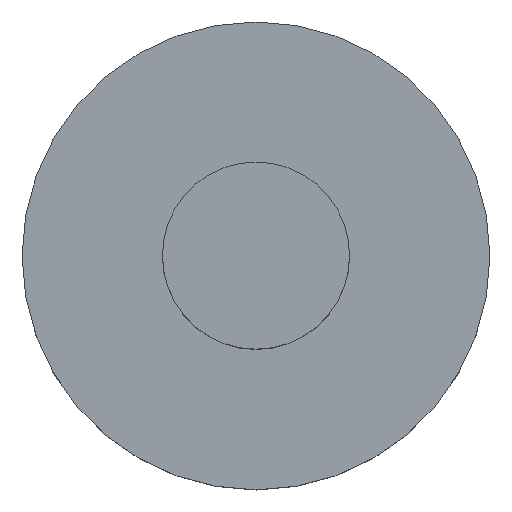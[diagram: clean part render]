
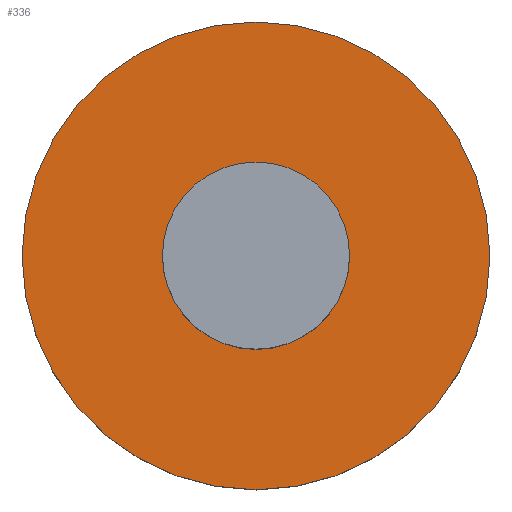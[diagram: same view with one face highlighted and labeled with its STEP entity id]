
A CAD part, top view. The second image highlights one B-rep face of the part: STEP entity #336.
In plain terms, the highlighted planar face has unit normal (0, 0, 1).
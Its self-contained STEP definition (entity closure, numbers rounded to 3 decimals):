
#95=CARTESIAN_POINT('',(0.,0.,-0.6));
#96=DIRECTION('',(0.,0.,1.));
#97=DIRECTION('',(0.,1.,0.));
#98=AXIS2_PLACEMENT_3D('',#95,#96,#97);
#100=CARTESIAN_POINT('',(0.,0.,-0.6));
#101=DIRECTION('',(0.,0.,-1.));
#102=DIRECTION('',(0.,1.,0.));
#103=AXIS2_PLACEMENT_3D('',#100,#101,#102);
#105=CARTESIAN_POINT('',(0.,0.,-0.6));
#106=DIRECTION('',(0.,0.,-1.));
#107=DIRECTION('',(0.,1.,0.));
#108=AXIS2_PLACEMENT_3D('',#105,#106,#107);
#118=CARTESIAN_POINT('',(0.,0.,-0.6));
#119=DIRECTION('',(0.,0.,1.));
#120=DIRECTION('',(0.,1.,0.));
#121=AXIS2_PLACEMENT_3D('',#118,#119,#120);
#144=CARTESIAN_POINT('',(0.,0.75,-0.6));
#146=VERTEX_POINT('',#144);
#147=CARTESIAN_POINT('',(0.,0.3,-0.6));
#149=VERTEX_POINT('',#147);
#160=CARTESIAN_POINT('',(0.,-0.75,-0.6));
#162=VERTEX_POINT('',#160);
#163=CARTESIAN_POINT('',(0.,-0.3,-0.6));
#165=VERTEX_POINT('',#163);
#321=CARTESIAN_POINT('',(0.,0.,-0.6));
#322=DIRECTION('',(0.,0.,-1.));
#323=DIRECTION('',(0.,-1.,0.));
#324=AXIS2_PLACEMENT_3D('',#321,#322,#323);
#325=PLANE('',#324);
#326=ORIENTED_EDGE('',*,*,#314,.F.);
#327=ORIENTED_EDGE('',*,*,#303,.T.);
#328=EDGE_LOOP('',(#326,#327));
#329=FACE_OUTER_BOUND('',#328,.F.);
#331=ORIENTED_EDGE('',*,*,#330,.F.);
#333=ORIENTED_EDGE('',*,*,#332,.T.);
#334=EDGE_LOOP('',(#331,#333));
#335=FACE_BOUND('',#334,.F.);
#336=ADVANCED_FACE('',(#329,#335),#325,.F.);
#99=CIRCLE('',#98,0.75);
#104=CIRCLE('',#103,0.75);
#109=CIRCLE('',#108,0.3);
#122=CIRCLE('',#121,0.3);
#303=EDGE_CURVE('',#146,#162,#104,.T.);
#314=EDGE_CURVE('',#146,#162,#99,.T.);
#330=EDGE_CURVE('',#149,#165,#109,.T.);
#332=EDGE_CURVE('',#149,#165,#122,.T.);
